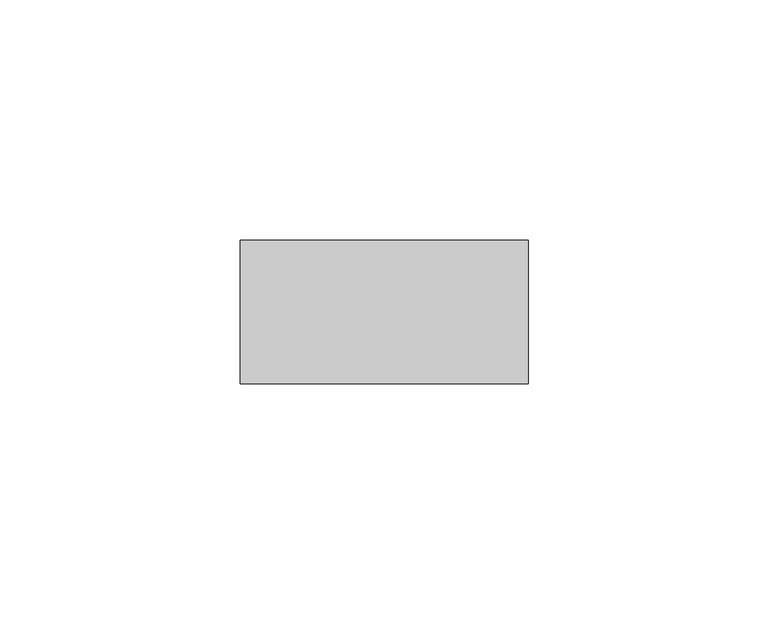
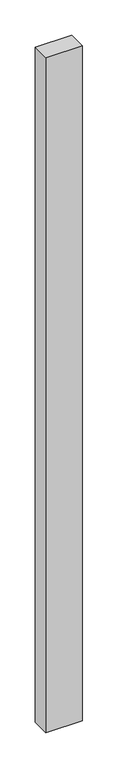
"""IFC4 building model written with IfcOpenShell, lengths in millimetres: member geometry, Прямоугольный импост : Квадрат 30 мм."""

from ifc_helpers import new_model, si_unit, frame, origin, place, context, project, spatial, polyline, outline, extrude, source, transform, mapped, element, save


def member_4bd5c83f(model_context):
    return source(origin(), model_context, "Body", "SweptSolid", [
        extrude(outline(polyline([(30.0, 15.0), (30.0, -15.0), (-30.0, -15.0), (-30.0, 15.0), (30.0, 15.0)])), frame((0.0, 0.0, -1170.0), z_axis=(0.0, 0.0, 1.0), x_axis=(1.0, 0.0, 0.0)), (0.0, 0.0, 1.0), 1170.0),
    ])


if __name__ == "__main__":
    model = new_model("IFC4")
    model_context = context("Model", 3, world=origin())
    ifc_project = project(units=[si_unit("LENGTHUNIT", "METRE", prefix="MILLI")], contexts=[model_context])
    site = spatial("IfcSite", under=ifc_project)
    building = spatial("IfcBuilding", under=site)
    placement = place(None, origin())
    member_shape = member_4bd5c83f(model_context)
    element("IfcMember", 1, ObjectType="Прямоугольный импост : Квадрат 30 мм", at=placement, inside=building, context=model_context, shape_type="MappedRepresentation", body=[
        mapped(member_shape, transform((0.0, 0.0, 0.0), x_axis=(1.0, 0.0, 0.0), y_axis=(0.0, 1.0, 0.0), z_axis=(0.0, 0.0, 1.0))),
    ])
    save(model, "model.ifc")
